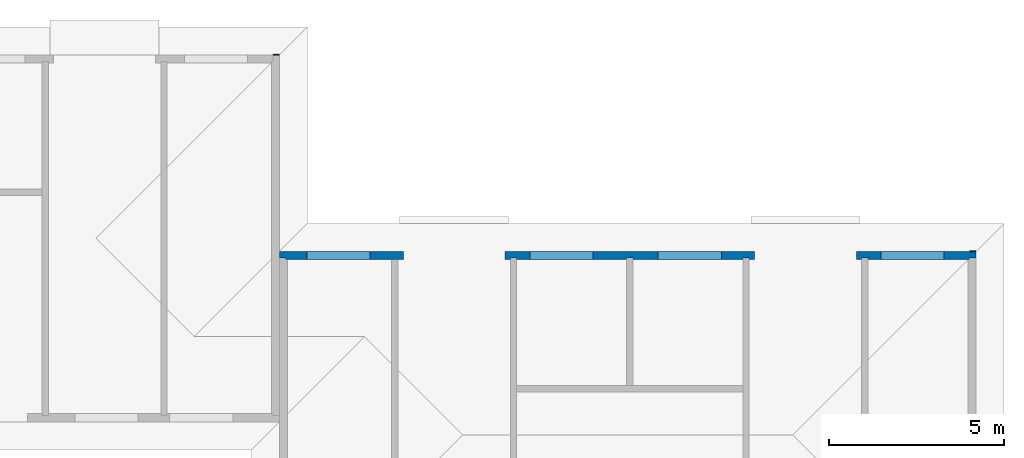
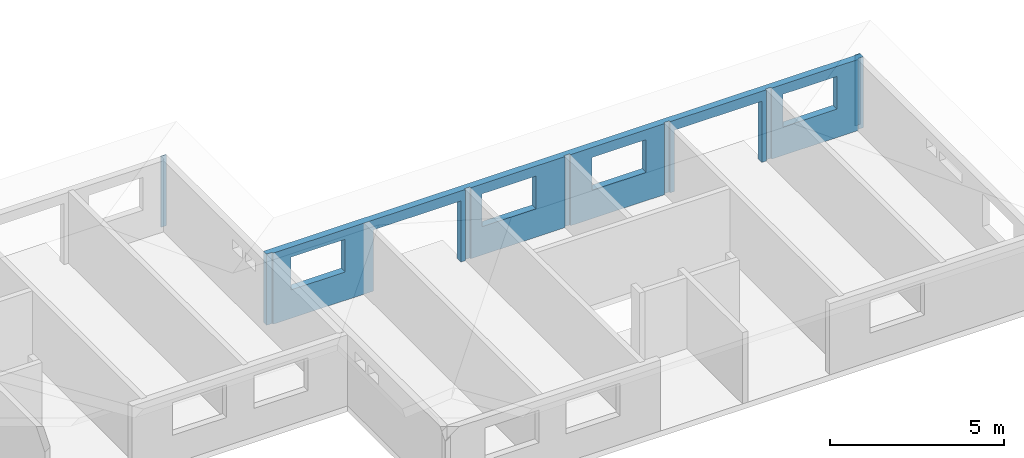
# One storey, part 9 of 9: 3 walls, 6 openings.
"""IFC2X3 building model written with IfcOpenShell, lengths in millimetres."""

from ifc_helpers import new_model, entity, si_unit, converted_unit, frame, frame_2d, origin, origin_with_axes, place, context, subcontext, project, spatial, polyline, rectangle, outline, extrude, material, layer, layer_set, layer_usage, element, save


model = new_model("IFC2X3")

# Units and contexts
model_context = context("Model", 3, precision=1e-05, world=origin())
plan_context = context("Plan", 3, precision=1e-05, world=origin())
body_context = subcontext(model_context, "Body", "Model", "MODEL_VIEW")
ifc_project = project(units=[si_unit("LENGTHUNIT", "METRE", prefix="MILLI"), converted_unit("PLANEANGLEUNIT", "DEGREE", entity("IfcPlaneAngleMeasure", 0.0174532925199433), si_unit("PLANEANGLEUNIT", "RADIAN"), dimensions=[0, 0, 0, 0, 0, 0, 0]), si_unit("AREAUNIT", "SQUARE_METRE"), si_unit("VOLUMEUNIT", "CUBIC_METRE")], contexts=[model_context, plan_context])

# Building, storey
building_placement = place(None, origin())
building = spatial("IfcBuilding", under=ifc_project, at=building_placement, Name="Bâtiment", CompositionType="ELEMENT")
storey_placement = place(building_placement, frame((0.0, 0.0, 8100.0), z_axis=(0.0, 0.0, 1.0), x_axis=(1.0, 0.0, 0.0)))
storey = spatial("IfcBuildingStorey", under=building, at=storey_placement, Name="r+3", CompositionType="ELEMENT", Elevation=8100.0)

# Wall, openings
ifc_material_1 = material(Name="moellons")
ifc_layer_1 = layer(ifc_material_1, 180.0000000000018)
ifc_material_2 = material(Name="briquettes")
ifc_layer_2 = layer(ifc_material_2, 40.0)
ifc_material_3 = material(Name="enduit platre")
ifc_layer_3 = layer(ifc_material_3, 10.0)
ifc_layer_set_1 = layer_set([ifc_layer_1, ifc_layer_2, ifc_layer_3])
ifc_layer_usage_1 = layer_usage(ifc_layer_set_1, "AXIS2", "POSITIVE", 0.0)
wall_1_placement = place(storey_placement, frame((59549.99999999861, 4870.077765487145, 0.0), z_axis=(0.0, 0.0, 1.0), x_axis=(-0.9999999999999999, 9.163674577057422e-17, 0.0)))
wall_1 = element("IfcWallStandardCase", 1, at=wall_1_placement, inside=storey, material=ifc_layer_usage_1, context=body_context, shape_type="SweptSolid", body=[
    extrude(outline(polyline([(219.9999999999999, 230.0), (219.9999999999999, 220.0), (179.9999999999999, 220.0), (179.9999999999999, 180.0), (-1.649461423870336e-14, 180.0), (0.0, 0.0), (19849.99999999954, 0.0), (19849.99999999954, 180.0), (19669.99999999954, 179.9999999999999), (19669.99999999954, 219.9999999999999), (19619.99999999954, 219.9999999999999), (19619.99999999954, 229.9999999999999), (13269.99999999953, 230.0000000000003), (13269.99999999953, 180.0000000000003), (13089.99999999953, 180.0000000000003), (13089.99999999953, 230.0000000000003), (9954.999999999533, 230.0), (9954.999999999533, 180.0000000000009), (9774.999999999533, 180.0000000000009), (9774.999999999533, 230.0), (6640.000061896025, 229.9999999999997), (6640.000061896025, 180.0000000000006), (6460.000061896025, 180.0000000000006), (6460.000061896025, 229.9999999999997), (3259.999999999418, 230.0000000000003), (3259.999999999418, 180.0000000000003), (3079.999999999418, 180.0000000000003), (3079.999999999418, 230.0000000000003), (219.9999999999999, 230.0)])), origin_with_axes(), (0.0, 0.0, 1.0), 2500.0),
])
opening_1_placement = place(wall_1_placement, frame((3410.000030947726, -9.094947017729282e-13, 0.0), z_axis=(0.0, 1.0, 0.0), x_axis=(0.0, 0.0, 1.0)))
element("IfcOpeningElement", 2, at=opening_1_placement, cuts=wall_1, Name="Baie de porte", ObjectType="Opening", context=body_context, shape_type="SweptSolid", body=[
    extrude(rectangle(XDim=2150.0, YDim=2900.0, at=frame_2d((1075.0, 1450.0), x_axis=(1.0, 0.0))), origin_with_axes(), (0.0, 0.0, 1.0), 230.0000000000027),
])
opening_2_placement = place(wall_1_placement, frame((13419.99999999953, -1.818989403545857e-12, 0.0), z_axis=(0.0, 1.0, 0.0), x_axis=(0.0, 0.0, 1.0)))
element("IfcOpeningElement", 3, at=opening_2_placement, cuts=wall_1, Name="Baie de porte", ObjectType="Opening", context=body_context, shape_type="SweptSolid", body=[
    extrude(rectangle(XDim=2150.0, YDim=2900.0, at=frame_2d((1075.0, 1450.0), x_axis=(1.0, 0.0))), origin_with_axes(), (0.0, 0.0, 1.0), 230.0000000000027),
])
opening_3_placement = place(wall_1_placement, frame((905.0000000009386, 0.0, 1000.0), z_axis=(0.0, 1.0, 0.0), x_axis=(0.0, 0.0, 1.0)))
element("IfcOpeningElement", 4, at=opening_3_placement, cuts=wall_1, Name="Baie de fenêtre", ObjectType="Opening", context=body_context, shape_type="SweptSolid", body=[
    extrude(rectangle(XDim=1150.0, YDim=1800.0, at=frame_2d((575.0, 900.0), x_axis=(1.0, 0.0))), origin_with_axes(), (0.0, 0.0, 1.0), 230.0),
])
opening_4_placement = place(wall_1_placement, frame((7254.999999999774, -9.094947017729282e-13, 1000.0), z_axis=(0.0, 1.0, 0.0), x_axis=(0.0, 0.0, 1.0)))
element("IfcOpeningElement", 5, at=opening_4_placement, cuts=wall_1, Name="Baie de fenêtre", ObjectType="Opening", context=body_context, shape_type="SweptSolid", body=[
    extrude(rectangle(XDim=1150.0, YDim=1800.0, at=frame_2d((575.0, 900.0), x_axis=(1.0, 0.0))), origin_with_axes(), (0.0, 0.0, 1.0), 230.0),
])
opening_5_placement = place(wall_1_placement, frame((10915.00000000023, -9.094947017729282e-13, 1000.0), z_axis=(0.0, 1.0, 0.0), x_axis=(0.0, 0.0, 1.0)))
element("IfcOpeningElement", 6, at=opening_5_placement, cuts=wall_1, Name="Baie de fenêtre", ObjectType="Opening", context=body_context, shape_type="SweptSolid", body=[
    extrude(rectangle(XDim=1150.0, YDim=1800.0, at=frame_2d((575.0, 900.0), x_axis=(1.0, 0.0))), origin_with_axes(), (0.0, 0.0, 1.0), 230.0),
])
opening_6_placement = place(wall_1_placement, frame((17264.99999999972, -1.818989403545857e-12, 1000.0), z_axis=(0.0, 1.0, 0.0), x_axis=(0.0, 0.0, 1.0)))
element("IfcOpeningElement", 7, at=opening_6_placement, cuts=wall_1, Name="Baie de fenêtre", ObjectType="Opening", context=body_context, shape_type="SweptSolid", body=[
    extrude(rectangle(XDim=1150.0, YDim=1800.0, at=frame_2d((575.0, 900.0), x_axis=(1.0, 0.0))), origin_with_axes(), (0.0, 0.0, 1.0), 230.0),
])

# Walls
ifc_material_4 = material(Name="moellons")
ifc_layer_4 = layer(ifc_material_4, 20.00000000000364)
ifc_layer_set_2 = layer_set([ifc_layer_4])
ifc_layer_usage_2 = layer_usage(ifc_layer_set_2, "AXIS2", "POSITIVE", 0.0)
wall_2_placement = place(storey_placement, frame((39699.99999999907, 10470.07776548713, 0.0), z_axis=(0.0, 0.0, 1.0), x_axis=(-1.0, 0.0, 0.0)))
element("IfcWallStandardCase", 8, at=wall_2_placement, inside=storey, material=ifc_layer_usage_2, context=body_context, shape_type="SweptSolid", body=[
    extrude(rectangle(XDim=180.0, YDim=20.00000000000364, at=frame_2d((90.0, 10.00000000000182), x_axis=(1.0, 0.0))), frame((0.0, -20.00000000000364, 0.0), z_axis=(0.0, 0.0, 1.0), x_axis=(1.0, 0.0, 0.0)), (0.0, 0.0, 1.0), 2500.0),
])
ifc_material_5 = material(Name="moellons")
ifc_layer_5 = layer(ifc_material_5, 20.00000000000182)
ifc_layer_set_3 = layer_set([ifc_layer_5])
ifc_layer_usage_3 = layer_usage(ifc_layer_set_3, "AXIS2", "POSITIVE", 0.0)
wall_3_placement = place(storey_placement, frame((59549.99999999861, 4870.077765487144, 0.0), z_axis=(0.0, 0.0, 1.0), x_axis=(-1.0, 0.0, 0.0)))
element("IfcWallStandardCase", 9, at=wall_3_placement, inside=storey, material=ifc_layer_usage_3, context=body_context, shape_type="SweptSolid", body=[
    extrude(rectangle(XDim=180.0, YDim=20.00000000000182, at=frame_2d((90.0, 10.00000000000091), x_axis=(1.0, 0.0))), frame((0.0, -20.00000000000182, 0.0), z_axis=(0.0, 0.0, 1.0), x_axis=(1.0, 0.0, 0.0)), (0.0, 0.0, 1.0), 2500.0),
])

save(model, "model.ifc")
